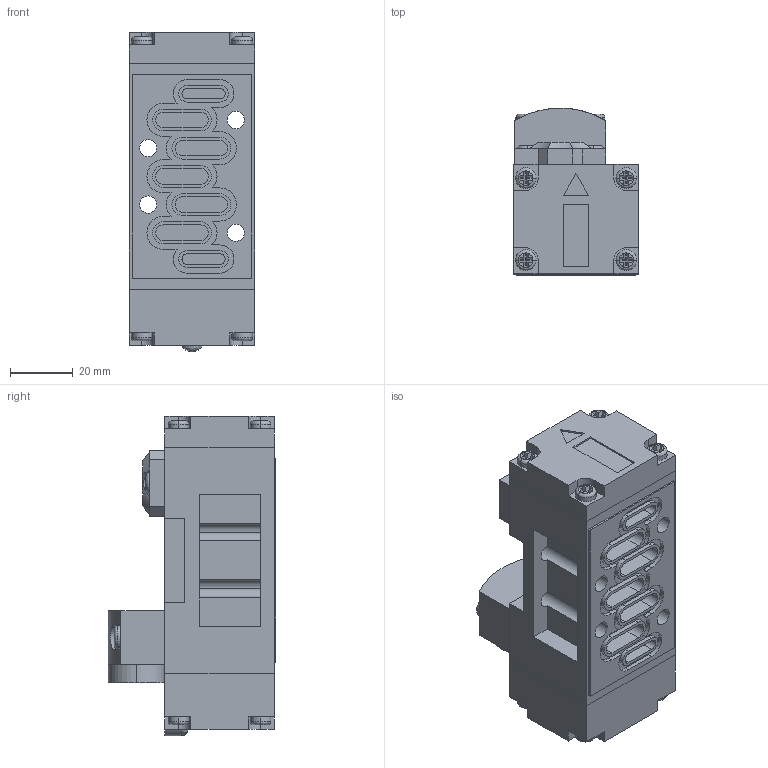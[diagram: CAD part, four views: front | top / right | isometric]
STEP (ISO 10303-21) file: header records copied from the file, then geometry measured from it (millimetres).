
FILE_DESCRIPTION (( 'STEP AP203' ), '1' );
FILE_NAME ('VB1-S-P.STEP', '2017-06-02T20:10:45', ( '' ), ( '' ), 'SwSTEP 2.0', 'SolidWorks 2016', '' );
FILE_SCHEMA (( 'CONFIG_CONTROL_DESIGN' ));
Length unit declared in the file: millimetre
Products named in the file (6): VB1-S-P Body Cover_ﾃﾑ-ﾏ; VB1-S-P Body_ﾃﾑ-ﾏ; VB1-S-P Semi Pilot_ﾃﾑ-ﾏ; VB1-S-P; VB1-S-P Cnomo Pilot; VB1-S-P Pilot_ﾃﾑ-ﾏ
Assembly tree (5 placements, depth 2):
  VB1-S-P
    VB1-S-P Cnomo Pilot
    VB1-S-P Pilot_ﾃﾑ-ﾏ
    VB1-S-P Body Cover_ﾃﾑ-ﾏ
    VB1-S-P Body_ﾃﾑ-ﾏ
    VB1-S-P Semi Pilot_ﾃﾑ-ﾏ
Bounding box: 40 x 53.6 x 102 mm (x, y, z)
Volume: 125903.6 mm3; surface area: 37171.8 mm2
Topology: 5 solids, 7 shells, 603 faces, 1635 edges, 1082 vertices
Faces by surface type: plane 431, cylinder 132, bspline 29, cone 11
Entity records: 20204 total; most frequent: CARTESIAN_POINT 4805, ORIENTED_EDGE 3266, DIRECTION 2841, EDGE_CURVE 1633, VERTEX_POINT 1082, LINE 1009, VECTOR 1009, AXIS2_PLACEMENT_3D 916
